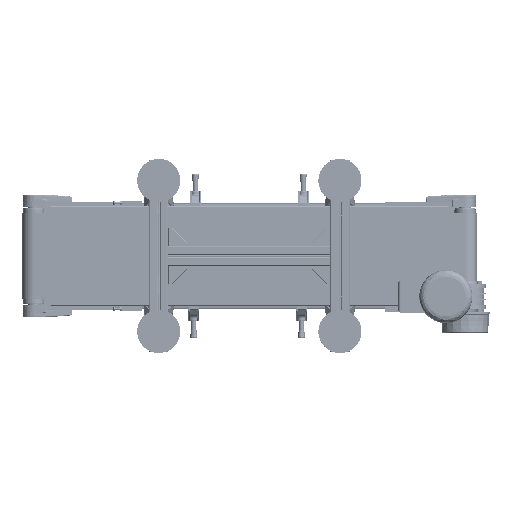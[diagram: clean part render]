
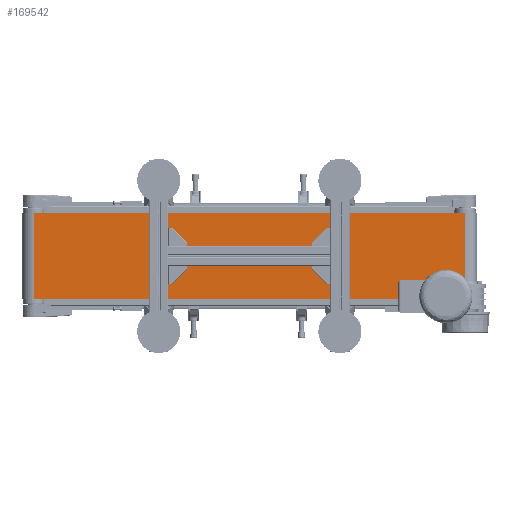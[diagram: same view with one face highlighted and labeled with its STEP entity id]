
A CAD part, front view. The second image highlights one B-rep face of the part: STEP entity #169542.
In plain terms, the highlighted planar face has unit normal (0, -1, 0).
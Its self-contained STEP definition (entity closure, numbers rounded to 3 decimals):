
#2048 = LINE ( 'NONE', #130726, #12527 ) ;
#5327 = CARTESIAN_POINT ( 'NONE',  ( 500., -27., -100. ) ) ;
#7419 = VECTOR ( 'NONE', #199189, 1000. ) ;
#12527 = VECTOR ( 'NONE', #93299, 1000. ) ;
#19104 = CARTESIAN_POINT ( 'NONE',  ( -500., -27., 100. ) ) ;
#23155 = CARTESIAN_POINT ( 'NONE',  ( -500., -27., -100. ) ) ;
#24197 = LINE ( 'NONE', #59269, #159860 ) ;
#27420 = CARTESIAN_POINT ( 'NONE',  ( 500., -27., 100. ) ) ;
#50851 = CARTESIAN_POINT ( 'NONE',  ( -500., -27., 100. ) ) ;
#54153 = VERTEX_POINT ( 'NONE', #27420 ) ;
#59269 = CARTESIAN_POINT ( 'NONE',  ( -500., -27., 100. ) ) ;
#68503 = CARTESIAN_POINT ( 'NONE',  ( -500., -27., -100. ) ) ;
#71709 = DIRECTION ( 'NONE',  ( 0., 1., 0. ) ) ;
#75403 = PLANE ( 'NONE',  #112022 ) ;
#84814 = VERTEX_POINT ( 'NONE', #5327 ) ;
#93299 = DIRECTION ( 'NONE',  ( 0., 0., -1. ) ) ;
#106669 = VERTEX_POINT ( 'NONE', #19104 ) ;
#112022 = AXIS2_PLACEMENT_3D ( 'NONE', #129061, #71709, #147866 ) ;
#112445 = EDGE_CURVE ( 'NONE', #106669, #54153, #128206, .T. ) ;
#116264 = ORIENTED_EDGE ( 'NONE', *, *, #240222, .F. ) ;
#122975 = LINE ( 'NONE', #23155, #7419 ) ;
#126072 = VECTOR ( 'NONE', #204432, 1000. ) ;
#128206 = LINE ( 'NONE', #50851, #126072 ) ;
#129061 = CARTESIAN_POINT ( 'NONE',  ( -500., -27., 100. ) ) ;
#130726 = CARTESIAN_POINT ( 'NONE',  ( 500., -27., 100. ) ) ;
#133984 = ORIENTED_EDGE ( 'NONE', *, *, #207700, .T. ) ;
#147866 = DIRECTION ( 'NONE',  ( 0., 0., 1. ) ) ;
#157656 = ORIENTED_EDGE ( 'NONE', *, *, #240729, .T. ) ;
#159860 = VECTOR ( 'NONE', #192879, 1000. ) ;
#169542 = ADVANCED_FACE ( 'NONE', ( #246513 ), #75403, .F. ) ;
#192879 = DIRECTION ( 'NONE',  ( 0., 0., -1. ) ) ;
#199189 = DIRECTION ( 'NONE',  ( 1., 0., 0. ) ) ;
#204432 = DIRECTION ( 'NONE',  ( 1., 0., 0. ) ) ;
#207700 = EDGE_CURVE ( 'NONE', #229186, #84814, #122975, .T. ) ;
#207994 = ORIENTED_EDGE ( 'NONE', *, *, #112445, .F. ) ;
#229186 = VERTEX_POINT ( 'NONE', #68503 ) ;
#240222 = EDGE_CURVE ( 'NONE', #54153, #84814, #2048, .T. ) ;
#240306 = EDGE_LOOP ( 'NONE', ( #133984, #116264, #207994, #157656 ) ) ;
#240729 = EDGE_CURVE ( 'NONE', #106669, #229186, #24197, .T. ) ;
#246513 = FACE_OUTER_BOUND ( 'NONE', #240306, .T. ) ;
